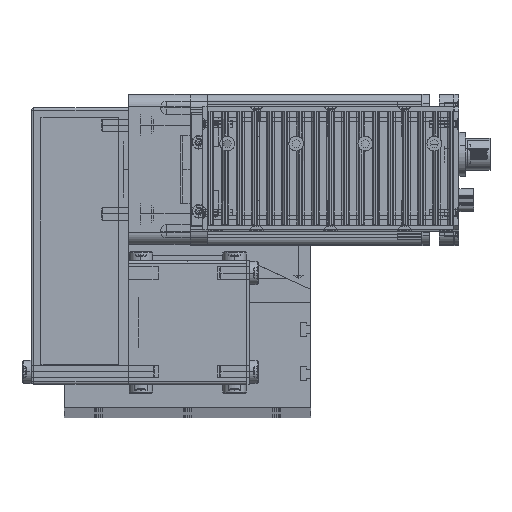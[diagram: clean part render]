
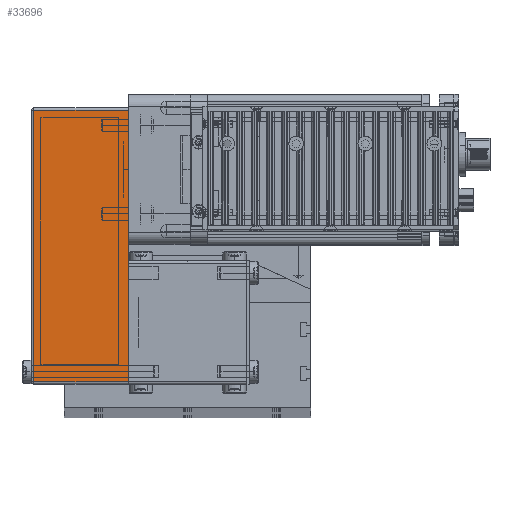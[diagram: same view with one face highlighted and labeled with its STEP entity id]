
A CAD part, top view. The second image highlights one B-rep face of the part: STEP entity #33696.
In plain terms, the highlighted planar face has unit normal (0, 0, 1) as drawn and (0, -1, 0) by its records, which use the part's own axes.
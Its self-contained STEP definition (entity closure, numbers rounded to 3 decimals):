
#6633 = VERTEX_POINT ( 'NONE', #11832 ) ;
#6789 = VERTEX_POINT ( 'NONE', #12034 ) ;
#6838 = EDGE_CURVE ( 'NONE', #6633, #6789, #12138, .T. ) ;
#9738 = VERTEX_POINT ( 'NONE', #13951 ) ;
#9789 = VERTEX_POINT ( 'NONE', #13952 ) ;
#9844 = EDGE_CURVE ( 'NONE', #9738, #9789, #13943, .T. ) ;
#11832 = CARTESIAN_POINT ( 'NONE',  ( 61., -25., 38.5 ) ) ;
#12034 = CARTESIAN_POINT ( 'NONE',  ( 61., -25., 0. ) ) ;
#12138 = LINE ( 'NONE', #12194, #12193 ) ;
#12192 = DIRECTION ( 'NONE',  ( 0., 0., -1. ) ) ;
#12193 = VECTOR ( 'NONE', #12192, 1000. ) ;
#12194 = CARTESIAN_POINT ( 'NONE',  ( 61., -25., 39.5 ) ) ;
#13938 = DIRECTION ( 'NONE',  ( 0., 0., 1. ) ) ;
#13939 = VECTOR ( 'NONE', #13938, 1000. ) ;
#13943 = LINE ( 'NONE', #13945, #13939 ) ;
#13945 = CARTESIAN_POINT ( 'NONE',  ( -49., -25., 39.5 ) ) ;
#13951 = CARTESIAN_POINT ( 'NONE',  ( -49., -25., 0. ) ) ;
#13952 = CARTESIAN_POINT ( 'NONE',  ( -49., -25., 38.5 ) ) ;
#15161 = DIRECTION ( 'NONE',  ( 0., 0., 1. ) ) ;
#15721 = AXIS2_PLACEMENT_3D ( 'NONE', #15732, #15731, #15161 ) ;
#15731 = DIRECTION ( 'NONE',  ( 0., 1., 0. ) ) ;
#15732 = CARTESIAN_POINT ( 'NONE',  ( -50., -25., 39.5 ) ) ;
#15735 = PLANE ( 'NONE',  #15721 ) ;
#18708 = FACE_OUTER_BOUND ( 'NONE', #33734, .T. ) ;
#18758 = DIRECTION ( 'NONE',  ( 1., 0., 0. ) ) ;
#18759 = VECTOR ( 'NONE', #18758, 1000. ) ;
#18760 = CARTESIAN_POINT ( 'NONE',  ( -50., -25., 38.5 ) ) ;
#18761 = LINE ( 'NONE', #18760, #18759 ) ;
#18775 = DIRECTION ( 'NONE',  ( 1., 0., 0. ) ) ;
#18776 = VECTOR ( 'NONE', #18775, 1000. ) ;
#18777 = CARTESIAN_POINT ( 'NONE',  ( -50., -25., 0. ) ) ;
#18778 = LINE ( 'NONE', #18777, #18776 ) ;
#33630 = ORIENTED_EDGE ( 'NONE', *, *, #33728, .T. ) ;
#33696 = ADVANCED_FACE ( 'NONE', ( #18708 ), #15735, .F. ) ;
#33698 = EDGE_CURVE ( 'NONE', #9789, #6633, #18761, .T. ) ;
#33699 = ORIENTED_EDGE ( 'NONE', *, *, #9844, .F. ) ;
#33705 = ORIENTED_EDGE ( 'NONE', *, *, #33698, .F. ) ;
#33706 = ORIENTED_EDGE ( 'NONE', *, *, #6838, .F. ) ;
#33728 = EDGE_CURVE ( 'NONE', #9738, #6789, #18778, .T. ) ;
#33734 = EDGE_LOOP ( 'NONE', ( #33699, #33630, #33706, #33705 ) ) ;
